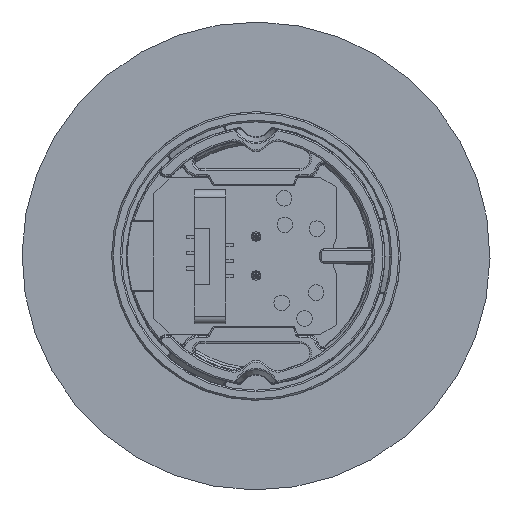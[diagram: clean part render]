
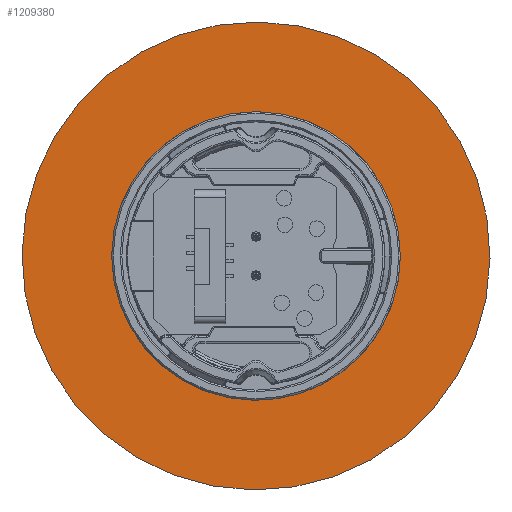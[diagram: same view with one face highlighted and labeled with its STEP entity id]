
A CAD part, left-side view. The second image highlights one B-rep face of the part: STEP entity #1209380.
In plain terms, the highlighted planar face has unit normal (-1, 0, 0).
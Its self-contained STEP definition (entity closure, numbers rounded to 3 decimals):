
#1208530=CARTESIAN_POINT('',(22.094,-25.823,
8.456));
#1208540=VERTEX_POINT('',#1208530);
#1208570=CARTESIAN_POINT('',(22.094,-10.824,
8.632));
#1208580=DIRECTION('',(1.,0.,0.));
#1208590=DIRECTION('',(0.,-1.,
-0.012));
#1208600=AXIS2_PLACEMENT_3D('',#1208570,#1208580,#1208590);
#1208610=CIRCLE('',#1208600,15.);
#1208620=CARTESIAN_POINT('',(22.094,4.175,
8.808));
#1208630=VERTEX_POINT('',#1208620);
#1208640=EDGE_CURVE('',#1208630,#1208540,#1208610,.T.);
#1209130=CARTESIAN_POINT('',(22.094,-3.325,
8.72));
#1209140=DIRECTION('',(1.,0.,0.));
#1209150=DIRECTION('',(0.,-1.,
-0.012));
#1209160=AXIS2_PLACEMENT_3D('',#1209130,#1209140,#1209150);
#1209170=PLANE('',#1209160);
#1209180=CARTESIAN_POINT('',(22.094,-10.824,
8.632));
#1209190=DIRECTION('',(-1.,0.,0.));
#1209200=DIRECTION('',(0.,-0.012,
1.));
#1209210=AXIS2_PLACEMENT_3D('',#1209180,#1209190,#1209200);
#1209220=CIRCLE('',#1209210,9.25);
#1209230=CARTESIAN_POINT('',(22.094,-10.933,
17.881));
#1209240=VERTEX_POINT('',#1209230);
#1209250=CARTESIAN_POINT('',(22.094,-10.716,
-0.617));
#1209260=VERTEX_POINT('',#1209250);
#1209270=EDGE_CURVE('',#1209240,#1209260,#1209220,.T.);
#1209280=ORIENTED_EDGE('',*,*,#1209270,.F.);
#1209290=EDGE_CURVE('',#1209260,#1209240,#1209220,.T.);
#1209300=ORIENTED_EDGE('',*,*,#1209290,.F.);
#1209310=EDGE_LOOP('',(#1209300,#1209280));
#1209320=FACE_BOUND('',#1209310,.T.);
#1209330=EDGE_CURVE('',#1208540,#1208630,#1208610,.T.);
#1209340=ORIENTED_EDGE('',*,*,#1209330,.F.);
#1209350=ORIENTED_EDGE('',*,*,#1208640,.F.);
#1209360=EDGE_LOOP('',(#1209350,#1209340));
#1209370=FACE_OUTER_BOUND('',#1209360,.T.);
#1209380=ADVANCED_FACE('',(#1209320,#1209370),#1209170,.F.);
